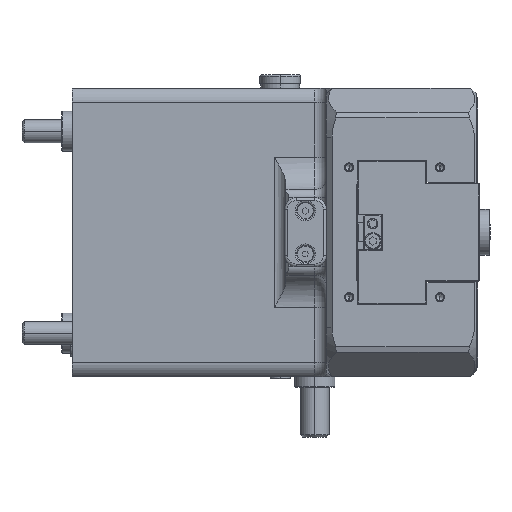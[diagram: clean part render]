
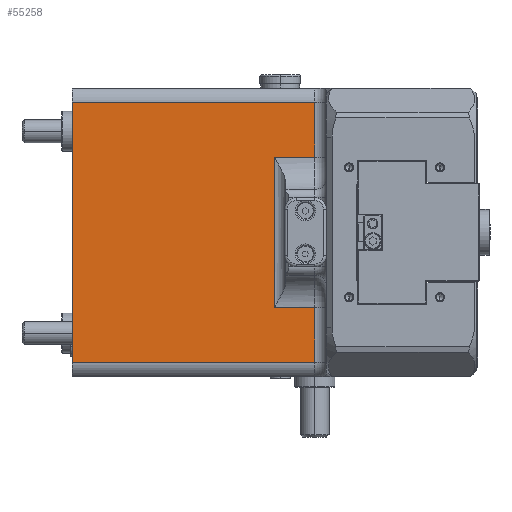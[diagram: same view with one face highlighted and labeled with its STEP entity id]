
A CAD part, left-side view. The second image highlights one B-rep face of the part: STEP entity #55258.
In plain terms, the highlighted planar face has unit normal (-1, 0, 0).
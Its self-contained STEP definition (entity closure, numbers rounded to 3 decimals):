
#177 = VECTOR ( 'NONE', #55184, 1000. ) ;
#3203 = DIRECTION ( 'NONE',  ( 0., -1., 0. ) ) ;
#7204 = ORIENTED_EDGE ( 'NONE', *, *, #52920, .T. ) ;
#7973 = EDGE_CURVE ( 'NONE', #45612, #54993, #23558, .T. ) ;
#8290 = CARTESIAN_POINT ( 'NONE',  ( -77., 53., -45.075 ) ) ;
#9400 = VECTOR ( 'NONE', #37543, 1000. ) ;
#11205 = EDGE_CURVE ( 'NONE', #38692, #69433, #28871, .T. ) ;
#12384 = CARTESIAN_POINT ( 'NONE',  ( -77., 71., 26.051 ) ) ;
#12433 = CARTESIAN_POINT ( 'NONE',  ( -77., 141., 50. ) ) ;
#13276 = LINE ( 'NONE', #48669, #71780 ) ;
#14674 = VERTEX_POINT ( 'NONE', #69033 ) ;
#17060 = VECTOR ( 'NONE', #68495, 1000. ) ;
#17127 = EDGE_CURVE ( 'NONE', #69433, #14674, #46078, .T. ) ;
#18218 = DIRECTION ( 'NONE',  ( 0., 1., 0. ) ) ;
#19230 = ORIENTED_EDGE ( 'NONE', *, *, #11205, .T. ) ;
#19300 = DIRECTION ( 'NONE',  ( 0., 1., 0. ) ) ;
#19446 = DIRECTION ( 'NONE',  ( 0., -1., 0. ) ) ;
#19503 = CARTESIAN_POINT ( 'NONE',  ( -77., 57., 26.051 ) ) ;
#21532 = EDGE_CURVE ( 'NONE', #14674, #54993, #54581, .T. ) ;
#23558 = LINE ( 'NONE', #37090, #38551 ) ;
#26236 = FACE_OUTER_BOUND ( 'NONE', #48187, .T. ) ;
#26937 = CARTESIAN_POINT ( 'NONE',  ( -77., 71., -50. ) ) ;
#28871 = LINE ( 'NONE', #12433, #59040 ) ;
#30038 = CARTESIAN_POINT ( 'NONE',  ( -77., 71., -26.051 ) ) ;
#31574 = CARTESIAN_POINT ( 'NONE',  ( -77., 57., -26.051 ) ) ;
#31694 = LINE ( 'NONE', #45962, #60088 ) ;
#31811 = VERTEX_POINT ( 'NONE', #19503 ) ;
#33848 = LINE ( 'NONE', #62783, #17060 ) ;
#33933 = ORIENTED_EDGE ( 'NONE', *, *, #49730, .T. ) ;
#34461 = ORIENTED_EDGE ( 'NONE', *, *, #56118, .T. ) ;
#37090 = CARTESIAN_POINT ( 'NONE',  ( -77., 194.007, -26.051 ) ) ;
#37543 = DIRECTION ( 'NONE',  ( 0., 0., 1. ) ) ;
#38551 = VECTOR ( 'NONE', #3203, 1000. ) ;
#38692 = VERTEX_POINT ( 'NONE', #49902 ) ;
#39954 = VERTEX_POINT ( 'NONE', #70349 ) ;
#45612 = VERTEX_POINT ( 'NONE', #30038 ) ;
#45962 = CARTESIAN_POINT ( 'NONE',  ( -77., 194.007, 26.051 ) ) ;
#45982 = ORIENTED_EDGE ( 'NONE', *, *, #59050, .T. ) ;
#46078 = LINE ( 'NONE', #8290, #59428 ) ;
#46309 = DIRECTION ( 'NONE',  ( 0., 0., -1. ) ) ;
#46379 = CARTESIAN_POINT ( 'NONE',  ( -77., 141., 50. ) ) ;
#48187 = EDGE_LOOP ( 'NONE', ( #19230, #57527, #62499, #71746, #34461, #7204, #33933, #45982 ) ) ;
#48669 = CARTESIAN_POINT ( 'NONE',  ( -77., 141., 45.075 ) ) ;
#48763 = VERTEX_POINT ( 'NONE', #12384 ) ;
#49730 = EDGE_CURVE ( 'NONE', #31811, #39954, #33848, .T. ) ;
#49902 = CARTESIAN_POINT ( 'NONE',  ( -77., 141., 45.075 ) ) ;
#51663 = DIRECTION ( 'NONE',  ( 0., -1., 0. ) ) ;
#52104 = DIRECTION ( 'NONE',  ( 1., 0., 0. ) ) ;
#52920 = EDGE_CURVE ( 'NONE', #48763, #31811, #31694, .T. ) ;
#54581 = LINE ( 'NONE', #60134, #9400 ) ;
#54993 = VERTEX_POINT ( 'NONE', #31574 ) ;
#55184 = DIRECTION ( 'NONE',  ( 0., 0., 1. ) ) ;
#55258 = ADVANCED_FACE ( 'NONE', ( #26236 ), #69009, .F. ) ;
#56118 = EDGE_CURVE ( 'NONE', #45612, #48763, #60419, .T. ) ;
#57527 = ORIENTED_EDGE ( 'NONE', *, *, #17127, .T. ) ;
#59040 = VECTOR ( 'NONE', #46309, 1000. ) ;
#59050 = EDGE_CURVE ( 'NONE', #39954, #38692, #13276, .T. ) ;
#59428 = VECTOR ( 'NONE', #19446, 1000. ) ;
#59668 = AXIS2_PLACEMENT_3D ( 'NONE', #46379, #52104, #18218 ) ;
#60088 = VECTOR ( 'NONE', #51663, 1000. ) ;
#60134 = CARTESIAN_POINT ( 'NONE',  ( -77., 57., -26.051 ) ) ;
#60419 = LINE ( 'NONE', #26937, #177 ) ;
#62499 = ORIENTED_EDGE ( 'NONE', *, *, #21532, .T. ) ;
#62783 = CARTESIAN_POINT ( 'NONE',  ( -77., 57., 45.075 ) ) ;
#68495 = DIRECTION ( 'NONE',  ( 0., 0., 1. ) ) ;
#68644 = CARTESIAN_POINT ( 'NONE',  ( -77., 141., -45.075 ) ) ;
#69009 = PLANE ( 'NONE',  #59668 ) ;
#69033 = CARTESIAN_POINT ( 'NONE',  ( -77., 57., -45.075 ) ) ;
#69433 = VERTEX_POINT ( 'NONE', #68644 ) ;
#70349 = CARTESIAN_POINT ( 'NONE',  ( -77., 57., 45.075 ) ) ;
#71746 = ORIENTED_EDGE ( 'NONE', *, *, #7973, .F. ) ;
#71780 = VECTOR ( 'NONE', #19300, 1000. ) ;
